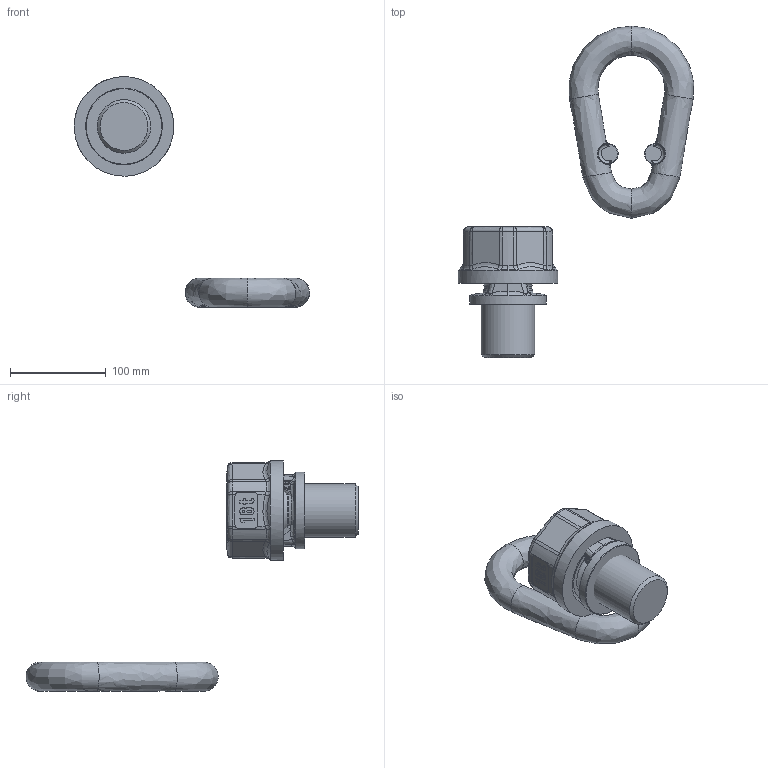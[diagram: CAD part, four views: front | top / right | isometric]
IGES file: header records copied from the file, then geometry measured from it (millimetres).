
Global section: file name: C:\ideas\IDEAS-Daten\temp\TP_Iges\TP17_M56x78_senkrecht.igs; preprocessor: I-DEAS 3D IGES Translator 11; date: 20090205.122246; units: millimetre
Bounding box: 246.07 x 347.17 x 241.11 mm (x, y, z)
Volume: 1078956 mm3; surface area: 115406.2 mm2
Topology: 3 solids, 3 shells, 676 faces, 1677 edges, 1013 vertices
Faces by surface type: bspline 676
